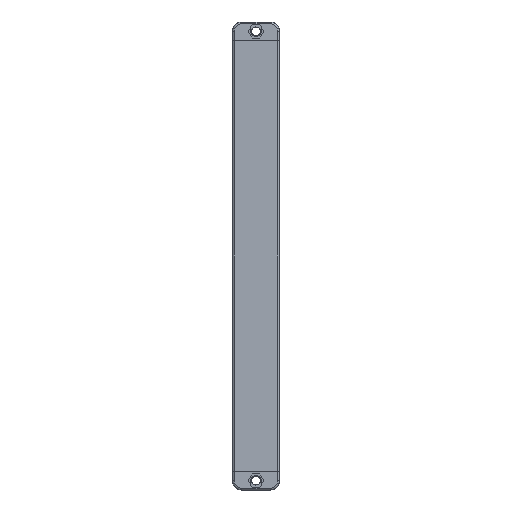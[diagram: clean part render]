
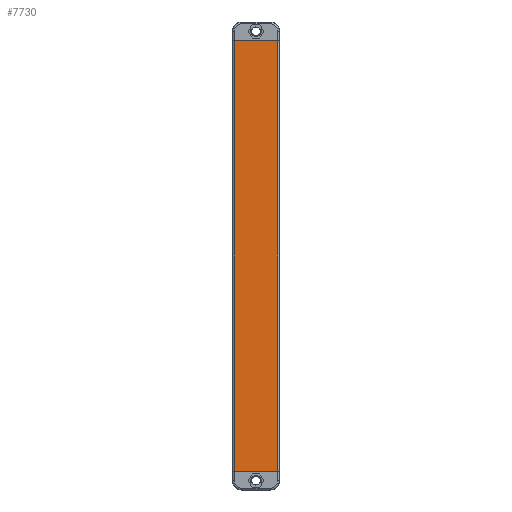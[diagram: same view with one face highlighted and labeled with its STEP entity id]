
A CAD part, front view. The second image highlights one B-rep face of the part: STEP entity #7730.
In plain terms, the highlighted planar face has unit normal (0, -1, 0).
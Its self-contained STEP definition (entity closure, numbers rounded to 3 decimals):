
#402 = LINE ( 'NONE', #3941, #5892 ) ;
#715 = CARTESIAN_POINT ( 'NONE',  ( -0.005, -6., 230. ) ) ;
#1346 = DIRECTION ( 'NONE',  ( 1., 0., 0. ) ) ;
#1374 = ORIENTED_EDGE ( 'NONE', *, *, #7610, .T. ) ;
#1399 = DIRECTION ( 'NONE',  ( 1., 0., 0. ) ) ;
#1592 = CARTESIAN_POINT ( 'NONE',  ( -11.5, -6., 0. ) ) ;
#1941 = VERTEX_POINT ( 'NONE', #6634 ) ;
#2483 = LINE ( 'NONE', #6036, #3537 ) ;
#3537 = VECTOR ( 'NONE', #9566, 1000. ) ;
#3941 = CARTESIAN_POINT ( 'NONE',  ( 11.5, -6., 230. ) ) ;
#4044 = VECTOR ( 'NONE', #1346, 1000. ) ;
#4261 = DIRECTION ( 'NONE',  ( 0., 1., 0. ) ) ;
#4377 = ORIENTED_EDGE ( 'NONE', *, *, #7554, .F. ) ;
#4410 = AXIS2_PLACEMENT_3D ( 'NONE', #715, #4261, #7791 ) ;
#5118 = FACE_OUTER_BOUND ( 'NONE', #7850, .T. ) ;
#5772 = LINE ( 'NONE', #9299, #4044 ) ;
#5826 = LINE ( 'NONE', #9349, #7008 ) ;
#5892 = VECTOR ( 'NONE', #7483, 1000. ) ;
#6017 = ORIENTED_EDGE ( 'NONE', *, *, #10349, .F. ) ;
#6036 = CARTESIAN_POINT ( 'NONE',  ( -11.5, -6., 230. ) ) ;
#6634 = CARTESIAN_POINT ( 'NONE',  ( 11.5, -6., 0. ) ) ;
#7008 = VECTOR ( 'NONE', #1399, 1000. ) ;
#7345 = CARTESIAN_POINT ( 'NONE',  ( -11.5, -6., 230. ) ) ;
#7483 = DIRECTION ( 'NONE',  ( 0., 0., -1. ) ) ;
#7554 = EDGE_CURVE ( 'NONE', #10972, #7770, #5772, .T. ) ;
#7610 = EDGE_CURVE ( 'NONE', #8314, #1941, #5826, .T. ) ;
#7730 = ADVANCED_FACE ( 'NONE', ( #5118 ), #8650, .F. ) ;
#7770 = VERTEX_POINT ( 'NONE', #10509 ) ;
#7791 = DIRECTION ( 'NONE',  ( 0., 0., 1. ) ) ;
#7850 = EDGE_LOOP ( 'NONE', ( #1374, #6017, #4377, #10835 ) ) ;
#7886 = EDGE_CURVE ( 'NONE', #10972, #8314, #2483, .T. ) ;
#8314 = VERTEX_POINT ( 'NONE', #1592 ) ;
#8650 = PLANE ( 'NONE',  #4410 ) ;
#9299 = CARTESIAN_POINT ( 'NONE',  ( -11.5, -6., 230. ) ) ;
#9349 = CARTESIAN_POINT ( 'NONE',  ( -0.005, -6., 0. ) ) ;
#9566 = DIRECTION ( 'NONE',  ( 0., 0., -1. ) ) ;
#10349 = EDGE_CURVE ( 'NONE', #7770, #1941, #402, .T. ) ;
#10509 = CARTESIAN_POINT ( 'NONE',  ( 11.5, -6., 230. ) ) ;
#10835 = ORIENTED_EDGE ( 'NONE', *, *, #7886, .T. ) ;
#10972 = VERTEX_POINT ( 'NONE', #7345 ) ;
